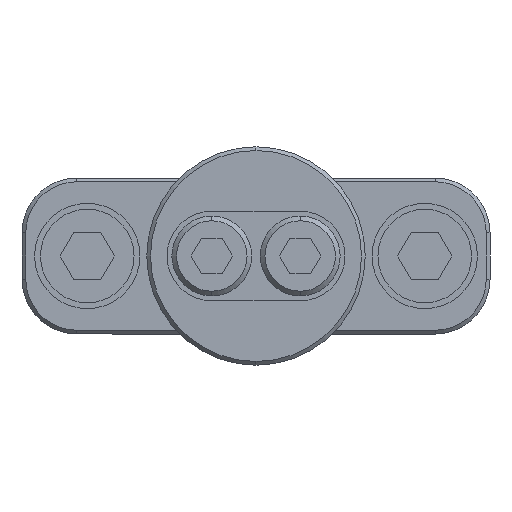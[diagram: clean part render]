
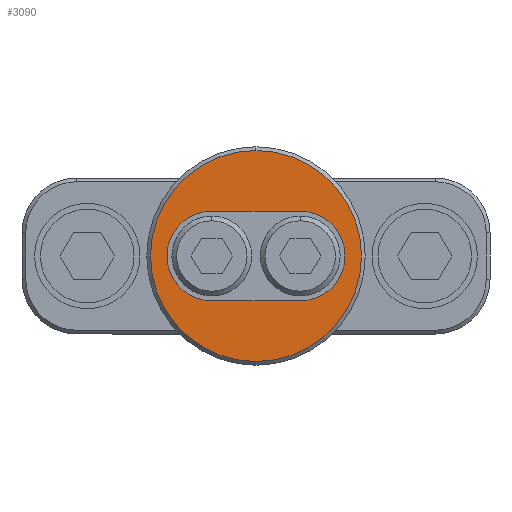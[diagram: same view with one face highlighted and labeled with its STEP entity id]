
A CAD part, front view. The second image highlights one B-rep face of the part: STEP entity #3090.
In plain terms, the highlighted planar face has unit normal (0, -1, 0).
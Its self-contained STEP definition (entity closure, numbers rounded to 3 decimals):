
#2688=CARTESIAN_POINT('',(-0.356,0.,0.));
#2689=VERTEX_POINT('',#2688);
#2698=CARTESIAN_POINT('',(-0.177,0.0,-0.179));
#2699=VERTEX_POINT('',#2698);
#2700=CARTESIAN_POINT('',(-0.177,0.0,0.));
#2701=DIRECTION('',(0.0,-1.0,0.0));
#2702=DIRECTION('',(0.0,0.0,1.0));
#2703=AXIS2_PLACEMENT_3D('',#2700,#2701,#2702);
#2704=CIRCLE('',#2703,0.18);
#2705=EDGE_CURVE('',#2689,#2699,#2704,.T.);
#2732=CARTESIAN_POINT('',(0.357,0.,0.));
#2733=VERTEX_POINT('',#2732);
#2749=CARTESIAN_POINT('',(0.177,0.,-0.18));
#2750=VERTEX_POINT('',#2749);
#2757=CARTESIAN_POINT('',(0.177,0.0,0.));
#2758=DIRECTION('',(0.0,-1.0,0.0));
#2759=DIRECTION('',(0.0,0.0,-1.0));
#2760=AXIS2_PLACEMENT_3D('',#2757,#2758,#2759);
#2761=CIRCLE('',#2760,0.18);
#2762=EDGE_CURVE('',#2750,#2733,#2761,.T.);
#2816=CARTESIAN_POINT('',(0.,0.,-0.422));
#2817=VERTEX_POINT('',#2816);
#2833=CARTESIAN_POINT('',(0.,0.,0.422));
#2834=VERTEX_POINT('',#2833);
#2841=CARTESIAN_POINT('',(0.0,0.0,0.0));
#2842=DIRECTION('',(0.0,1.0,0.0));
#2843=DIRECTION('',(1.0,0.0,0.0));
#2844=AXIS2_PLACEMENT_3D('',#2841,#2842,#2843);
#2845=CIRCLE('',#2844,0.422);
#2846=EDGE_CURVE('',#2817,#2834,#2845,.F.);
#3032=CARTESIAN_POINT('',(0.0,0.0,0.0));
#3033=DIRECTION('',(0.0,1.0,0.0));
#3034=DIRECTION('',(0.0,0.0,-1.0));
#3035=AXIS2_PLACEMENT_3D('',#3032,#3033,#3034);
#3036=PLANE('',#3035);
#3037=CARTESIAN_POINT('',(-0.422,0.0,0.));
#3038=VERTEX_POINT('',#3037);
#3039=CARTESIAN_POINT('',(0.0,0.0,0.0));
#3040=DIRECTION('',(0.0,1.0,0.0));
#3041=DIRECTION('',(1.0,0.0,0.0));
#3042=AXIS2_PLACEMENT_3D('',#3039,#3040,#3041);
#3043=CIRCLE('',#3042,0.422);
#3044=EDGE_CURVE('',#3038,#2817,#3043,.F.);
#3045=ORIENTED_EDGE('',*,*,#3044,.T.);
#3046=ORIENTED_EDGE('',*,*,#2846,.T.);
#3047=CARTESIAN_POINT('',(0.0,0.0,0.0));
#3048=DIRECTION('',(0.0,1.0,0.0));
#3049=DIRECTION('',(1.0,0.0,0.0));
#3050=AXIS2_PLACEMENT_3D('',#3047,#3048,#3049);
#3051=CIRCLE('',#3050,0.422);
#3052=EDGE_CURVE('',#2834,#3038,#3051,.F.);
#3053=ORIENTED_EDGE('',*,*,#3052,.T.);
#3054=EDGE_LOOP('',(#3045,#3046,#3053));
#3055=FACE_OUTER_BOUND('',#3054,.T.);
#3056=CARTESIAN_POINT('',(-0.177,0.0,-0.179));
#3057=DIRECTION('',(1.0,0.0,0.0));
#3058=VECTOR('',#3057,0.354);
#3059=LINE('',#3056,#3058);
#3060=EDGE_CURVE('',#2699,#2750,#3059,.T.);
#3061=ORIENTED_EDGE('',*,*,#3060,.F.);
#3062=ORIENTED_EDGE('',*,*,#2705,.F.);
#3063=CARTESIAN_POINT('',(-0.177,0.0,0.18));
#3064=VERTEX_POINT('',#3063);
#3065=CARTESIAN_POINT('',(-0.177,0.0,0.));
#3066=DIRECTION('',(0.0,-1.0,0.0));
#3067=DIRECTION('',(0.0,0.0,1.0));
#3068=AXIS2_PLACEMENT_3D('',#3065,#3066,#3067);
#3069=CIRCLE('',#3068,0.18);
#3070=EDGE_CURVE('',#3064,#2689,#3069,.T.);
#3071=ORIENTED_EDGE('',*,*,#3070,.F.);
#3072=CARTESIAN_POINT('',(0.177,0.0,0.18));
#3073=VERTEX_POINT('',#3072);
#3074=CARTESIAN_POINT('',(0.177,0.0,0.18));
#3075=DIRECTION('',(-1.0,0.0,0.0));
#3076=VECTOR('',#3075,0.354);
#3077=LINE('',#3074,#3076);
#3078=EDGE_CURVE('',#3073,#3064,#3077,.T.);
#3079=ORIENTED_EDGE('',*,*,#3078,.F.);
#3080=CARTESIAN_POINT('',(0.177,0.0,0.));
#3081=DIRECTION('',(0.0,-1.0,0.0));
#3082=DIRECTION('',(0.0,0.0,-1.0));
#3083=AXIS2_PLACEMENT_3D('',#3080,#3081,#3082);
#3084=CIRCLE('',#3083,0.18);
#3085=EDGE_CURVE('',#2733,#3073,#3084,.T.);
#3086=ORIENTED_EDGE('',*,*,#3085,.F.);
#3087=ORIENTED_EDGE('',*,*,#2762,.F.);
#3088=EDGE_LOOP('',(#3061,#3062,#3071,#3079,#3086,#3087));
#3089=FACE_BOUND('',#3088,.T.);
#3090=ADVANCED_FACE('',(#3055,#3089),#3036,.F.);
